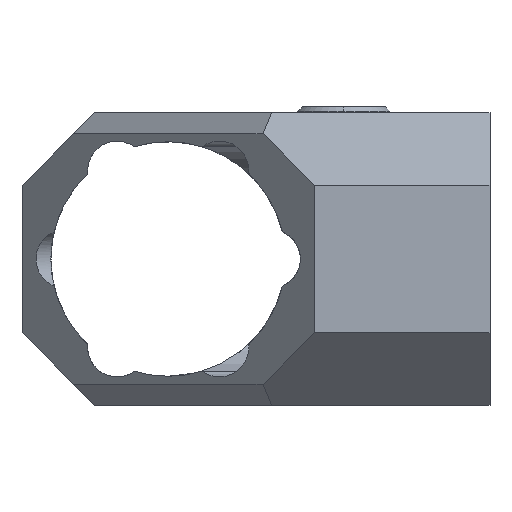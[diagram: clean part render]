
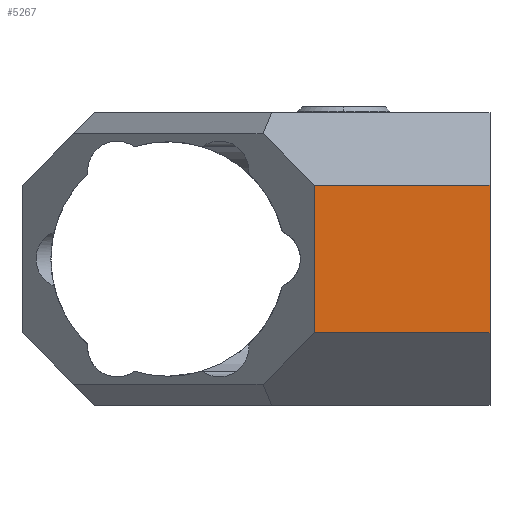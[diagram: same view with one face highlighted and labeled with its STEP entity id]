
A CAD part, left-side view. The second image highlights one B-rep face of the part: STEP entity #5267.
In plain terms, the highlighted planar face has unit normal (-1, 0, 0).
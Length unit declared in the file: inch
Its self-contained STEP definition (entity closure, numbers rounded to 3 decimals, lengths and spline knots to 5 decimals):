
#1315 = FACE_OUTER_BOUND ( 'NONE', #2151, .T. ) ;
#1754 = ORIENTED_EDGE ( 'NONE', *, *, #11934, .T. ) ;
#1755 = ORIENTED_EDGE ( 'NONE', *, *, #11935, .T. ) ;
#1756 = ORIENTED_EDGE ( 'NONE', *, *, #11936, .T. ) ;
#1757 = ORIENTED_EDGE ( 'NONE', *, *, #11937, .T. ) ;
#2151 = EDGE_LOOP ( 'NONE', ( #1754, #1755, #1756, #1757 ) ) ;
#5267 = ADVANCED_FACE ( 'NONE', ( #1315 ), #11465, .T. ) ;
#8108 = VERTEX_POINT ( 'NONE', #10865 ) ;
#8654 = LINE ( 'NONE', #17455, #8655 ) ;
#8655 = VECTOR ( 'NONE', #17452, 39.37008 ) ;
#8656 = LINE ( 'NONE', #17445, #8657 ) ;
#8657 = VECTOR ( 'NONE', #17442, 39.37008 ) ;
#8658 = LINE ( 'NONE', #17434, #8659 ) ;
#8659 = VECTOR ( 'NONE', #17431, 39.37008 ) ;
#8660 = LINE ( 'NONE', #17426, #8661 ) ;
#8661 = VECTOR ( 'NONE', #17423, 39.37008 ) ;
#10865 = CARTESIAN_POINT ( 'NONE',  ( 0., 0.75, -0.94 ) ) ;
#11462 = DIRECTION ( 'NONE',  ( 0., 0., 1. ) ) ;
#11463 = DIRECTION ( 'NONE',  ( -1., 0., 0. ) ) ;
#11464 = CARTESIAN_POINT ( 'NONE',  ( 0., 0., -1.25 ) ) ;
#11465 = PLANE ( 'NONE',  #12293 ) ;
#11934 = EDGE_CURVE ( 'NONE', #12553, #12706, #8654, .T. ) ;
#11935 = EDGE_CURVE ( 'NONE', #12706, #12964, #8656, .T. ) ;
#11936 = EDGE_CURVE ( 'NONE', #12964, #8108, #8658, .T. ) ;
#11937 = EDGE_CURVE ( 'NONE', #8108, #12553, #8660, .T. ) ;
#12293 = AXIS2_PLACEMENT_3D ( 'NONE', #11464, #11463, #11462 ) ;
#12553 = VERTEX_POINT ( 'NONE', #17935 ) ;
#12706 = VERTEX_POINT ( 'NONE', #17746 ) ;
#12964 = VERTEX_POINT ( 'NONE', #17433 ) ;
#17423 = DIRECTION ( 'NONE',  ( 0., -1., 0. ) ) ;
#17426 = CARTESIAN_POINT ( 'NONE',  ( 0., 0., -0.94 ) ) ;
#17431 = DIRECTION ( 'NONE',  ( 0., 0., -1. ) ) ;
#17433 = CARTESIAN_POINT ( 'NONE',  ( 0., 0.75, -0.31 ) ) ;
#17434 = CARTESIAN_POINT ( 'NONE',  ( 0., 0.75, 3.86541 ) ) ;
#17442 = DIRECTION ( 'NONE',  ( 0., 1., 0. ) ) ;
#17445 = CARTESIAN_POINT ( 'NONE',  ( 0., 0.75, -0.31 ) ) ;
#17452 = DIRECTION ( 'NONE',  ( 0., 0., 1. ) ) ;
#17455 = CARTESIAN_POINT ( 'NONE',  ( 0., 0., -1.25 ) ) ;
#17746 = CARTESIAN_POINT ( 'NONE',  ( 0., 0., -0.31 ) ) ;
#17935 = CARTESIAN_POINT ( 'NONE',  ( 0., 0., -0.94 ) ) ;
